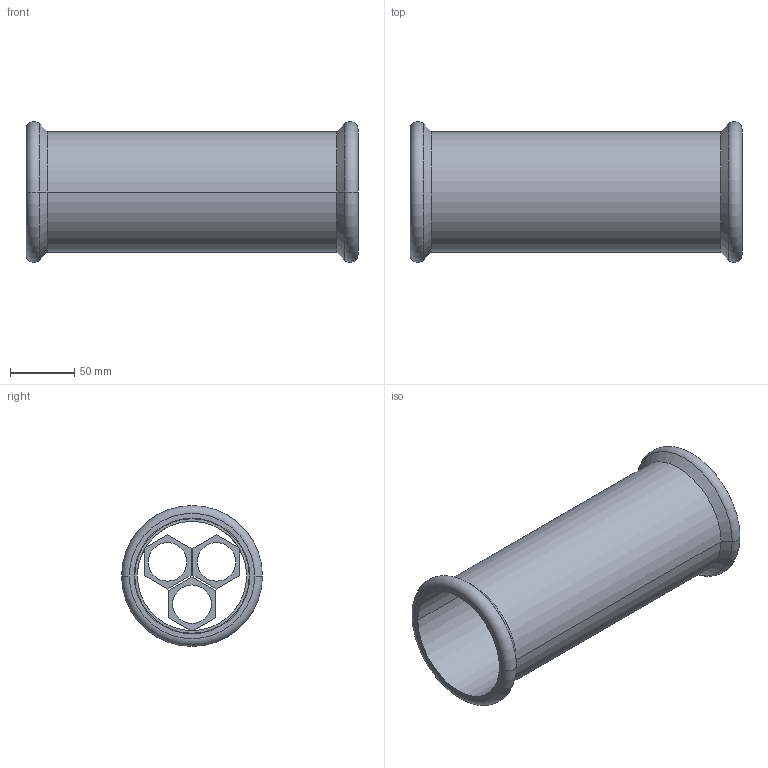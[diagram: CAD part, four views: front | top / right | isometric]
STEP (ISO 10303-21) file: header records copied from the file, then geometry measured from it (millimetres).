
FILE_DESCRIPTION(('OneSpaceDesigner STEP Export'),'2;1');
FILE_NAME('R2703 89x89.stp','2010-06-09T 9:38:01',(''),(''),'OneSpace Designer STEP processor for AP214 (Solid Model)','OneSpace Modeling 15.00A 14-Mar-2007 (C) CoCreate Software GmbH','');
FILE_SCHEMA(('AUTOMOTIVE_DESIGN { 1 0 10303 214 1 1 1 1 }'));
Length unit declared in the file: millimetre
Products named in the file (2): R2703_89x89
Assembly tree (1 placements, depth 2):
  R2703_89x89
    R2703_89x89
Bounding box: 258 x 109.48 x 109.48 mm (x, y, z)
Volume: 302619 mm3; surface area: 166629.6 mm2
Topology: 1 solids, 1 shells, 98 faces, 252 edges, 166 vertices
Faces by surface type: plane 60, cylinder 30, cone 4, torus 4
Entity records: 2667 total; most frequent: ORIENTED_EDGE 504, CARTESIAN_POINT 438, DIRECTION 378, EDGE_CURVE 252, VECTOR 166, LINE 166, VERTEX_POINT 166, EDGE_LOOP 122
